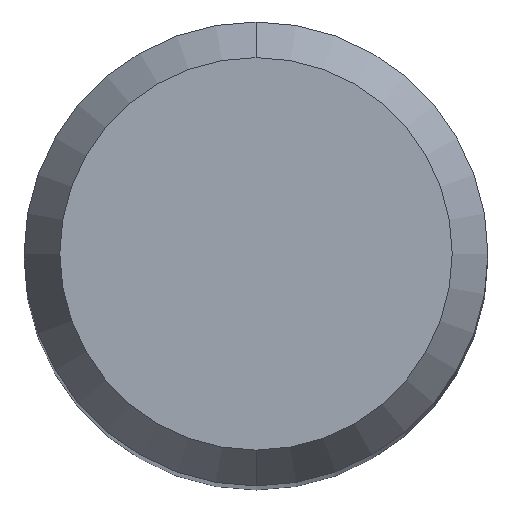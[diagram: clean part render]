
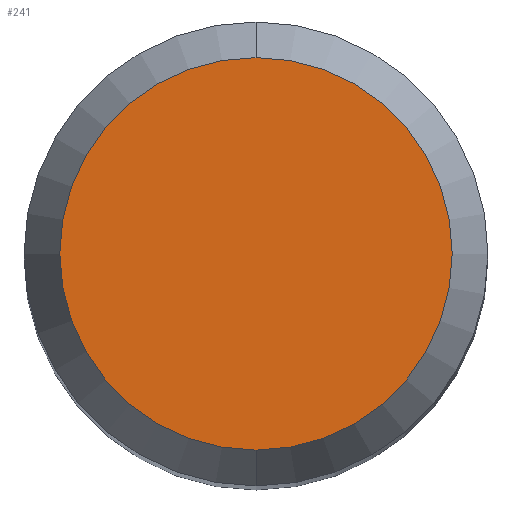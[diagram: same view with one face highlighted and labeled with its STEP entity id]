
A CAD part, top view. The second image highlights one B-rep face of the part: STEP entity #241.
In plain terms, the highlighted planar face has unit normal (0, 0, 1).
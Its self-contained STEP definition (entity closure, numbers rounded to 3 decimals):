
#179=VERTEX_POINT('',#431);
#217=EDGE_CURVE('',#179,#333,#472,.T.);
#241=ADVANCED_FACE('',(#499),#500,.T.);
#263=EDGE_CURVE('',#333,#179,#524,.T.);
#333=VERTEX_POINT('',#605);
#431=CARTESIAN_POINT('',(0.0,2.538,0.0));
#472=CIRCLE('',#844,2.538);
#499=FACE_OUTER_BOUND('',#874,.T.);
#500=PLANE('',#875);
#524=CIRCLE('',#933,2.538);
#605=CARTESIAN_POINT('',(0.,-2.538,0.0));
#844=AXIS2_PLACEMENT_3D('',#1290,#1291,#1292);
#874=EDGE_LOOP('',(#1323,#1324));
#875=AXIS2_PLACEMENT_3D('',#1325,#1326,#1327);
#933=AXIS2_PLACEMENT_3D('',#1347,#1348,#1349);
#1290=CARTESIAN_POINT('',(0.0,0.0,0.0));
#1291=DIRECTION('',(0.0,0.0,-1.0));
#1292=DIRECTION('',(0.0,1.0,0.0));
#1323=ORIENTED_EDGE('',*,*,#217,.F.);
#1324=ORIENTED_EDGE('',*,*,#263,.F.);
#1325=CARTESIAN_POINT('',(0.0,1.269,0.0));
#1326=DIRECTION('',(-0.0,0.0,1.0));
#1327=DIRECTION('',(0.0,-1.0,0.0));
#1347=CARTESIAN_POINT('',(0.0,0.0,0.0));
#1348=DIRECTION('',(0.0,0.0,-1.0));
#1349=DIRECTION('',(0.0,1.0,0.0));
